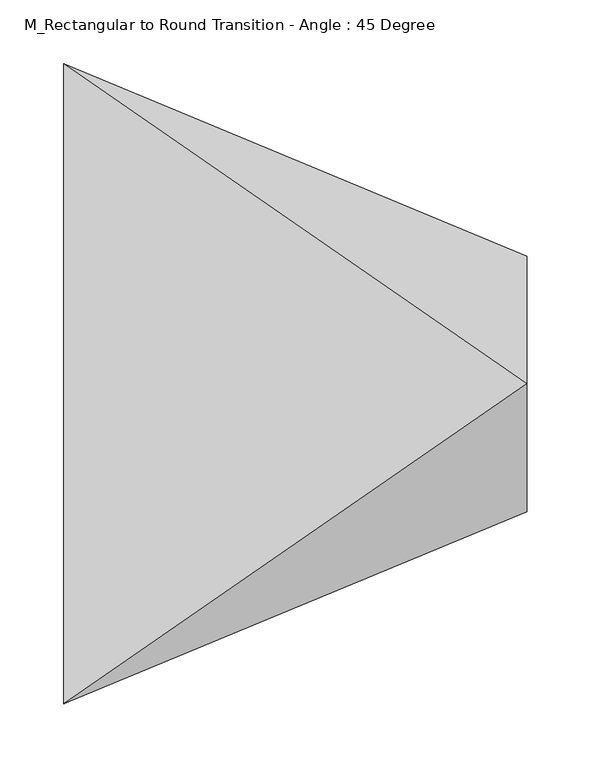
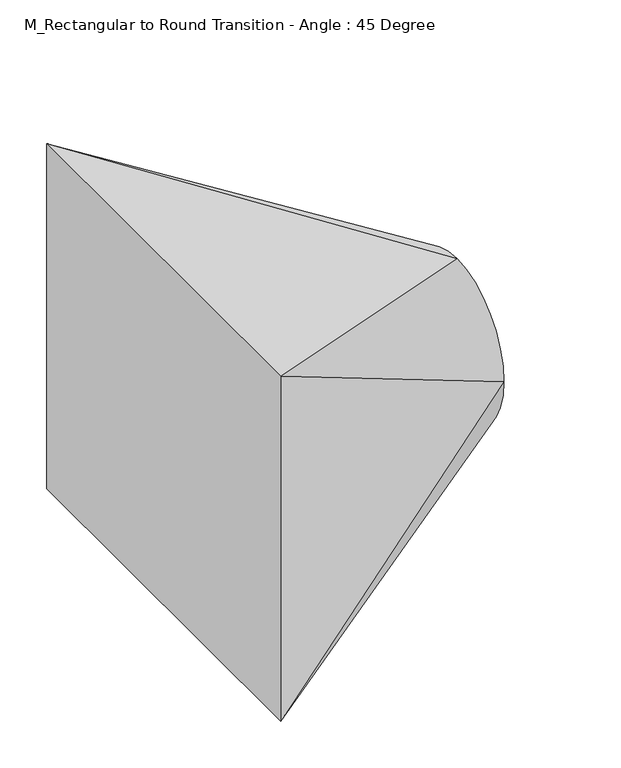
"""IFC4 building model written with IfcOpenShell, lengths in millimetres: duct fitting geometry, M_Rectangular to Round Transition - Angle : 45 Degree."""

from ifc_helpers import new_model, si_unit, frame, origin, place, context, project, spatial, circle_curve, source, transform, mapped, element, save
from ifc_brep_helpers import plane_surface, spline_surface, advanced_brep


def m_rectangular_to_round_transition_angle_45_degree_52f8b7ed(model_context):
    return source(origin(), model_context, "Body", "AdvancedBrep", [
        advanced_brep(
        [(0.0, -250.0, -225.0), (0.0, -250.0, 225.0), (0.0, 250.0, 225.0), (0.0, 250.0, -225.0), (362.1320344, -100.0, 0.0), (362.1320344, 0.0, -100.0), (362.1320344, 100.0, 0.0), (362.1320344, 0.0, 100.0)],
        [
            (0, 1),
            (1, 2),
            (2, 3),
            (3, 0),
            (4, 5, circle_curve(frame((362.1320344, 0.0, 0.0), z_axis=(1.0, 0.0, 0.0), x_axis=(0.0, -1.0, 0.0)), 100.0)),
            (5, 6, circle_curve(frame((362.1320344, 0.0, 0.0), z_axis=(1.0, 0.0, 0.0), x_axis=(0.0, -1.0, 0.0)), 100.0)),
            (6, 7, circle_curve(frame((362.1320344, 0.0, 0.0), z_axis=(1.0, 0.0, 0.0), x_axis=(0.0, -1.0, 0.0)), 100.0)),
            (7, 4, circle_curve(frame((362.1320344, 0.0, 0.0), z_axis=(1.0, 0.0, 0.0), x_axis=(0.0, -1.0, 0.0)), 100.0)),
            (0, 4),
            (4, 1),
            (7, 1),
            (7, 2),
            (6, 2),
            (6, 3),
            (5, 3),
            (5, 0),
        ],
        [
            plane_surface(frame((0.0, 0.0, 0.0), z_axis=(-1.0, 0.0, 0.0), x_axis=(0.0, 1.0, 0.0))),
            plane_surface(frame((362.1320344, 0.0, 0.0), z_axis=(1.0, 0.0, 0.0), x_axis=(0.0, 1.0, 0.0))),
            plane_surface(frame((362.1320344, -100.0, 0.0), z_axis=(0.38268343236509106, -0.9238795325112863, 0.0), x_axis=(0.0, 0.0, 1.0))),
            spline_surface(2, 1, [[(362.1320344, -100.0, 0.0), (0.0, -250.0, 225.0)], [(362.1320344, -100.0, 100.0), (0.0, -250.0, 225.0)], [(362.1320344, 0.0, 100.0), (0.0, -250.0, 225.0)]], [3, 3], [2, 2], [0.0, 1.0], [0.0, 1.0], weights=[[1.0, 1.0], [0.7071067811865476, 0.7071067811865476], [1.0, 1.0]]),
            plane_surface(frame((362.1320344, 0.0, 100.0), z_axis=(0.32628667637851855, 0.0, 0.9452708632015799), x_axis=(0.0, 1.0, 0.0))),
            spline_surface(2, 1, [[(362.1320344, 0.0, 100.0), (0.0, 250.0, 225.0)], [(362.1320344, 100.0, 100.0), (0.0, 250.0, 225.0)], [(362.1320344, 100.0, 0.0), (0.0, 250.0, 225.0)]], [3, 3], [2, 2], [0.0, 1.0], [0.0, 1.0], weights=[[1.0, 1.0], [0.7071067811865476, 0.7071067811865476], [1.0, 1.0]]),
            plane_surface(frame((362.1320344, 100.0, 0.0), z_axis=(0.3826834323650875, 0.9238795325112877, 0.0), x_axis=(0.0, 0.0, -1.0))),
            spline_surface(2, 1, [[(362.1320344, 100.0, 0.0), (0.0, 250.0, -225.0)], [(362.1320344, 100.0, -100.0), (0.0, 250.0, -225.0)], [(362.1320344, 0.0, -100.0), (0.0, 250.0, -225.0)]], [3, 3], [2, 2], [0.0, 1.0], [0.0, 1.0], weights=[[1.0, 1.0], [0.7071067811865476, 0.7071067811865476], [1.0, 1.0]]),
            plane_surface(frame((362.1320344, 0.0, -100.0), z_axis=(0.3262866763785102, 0.0, -0.9452708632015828), x_axis=(0.0, -1.0, 0.0))),
            spline_surface(2, 1, [[(362.1320344, 0.0, -100.0), (0.0, -250.0, -225.0)], [(362.1320344, -100.0, -100.0), (0.0, -250.0, -225.0)], [(362.1320344, -100.0, 0.0), (0.0, -250.0, -225.0)]], [3, 3], [2, 2], [0.0, 1.0], [0.0, 1.0], weights=[[1.0, 1.0], [0.7071067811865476, 0.7071067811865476], [1.0, 1.0]]),
        ],
        [
            (0, [[1, 2, 3, 4]]),
            (1, [[5, 6, 7, 8]]),
            (2, [[-1, 9, 10]]),
            (3, [[-8, 11, -10]]),
            (4, [[-2, -11, 12]]),
            (5, [[-7, 13, -12]]),
            (6, [[-3, -13, 14]]),
            (7, [[-6, 15, -14]]),
            (8, [[-4, -15, 16]]),
            (9, [[-5, -9, -16]]),
        ],
    ),
        advanced_brep(
        [(0.0, -250.0, -225.0), (0.0, -250.0, 225.0), (0.0, 250.0, 225.0), (0.0, 250.0, -225.0), (362.1320344, -100.0, 0.0), (362.1320344, 0.0, -100.0), (362.1320344, 100.0, 0.0), (362.1320344, 0.0, 100.0)],
        [
            (0, 1),
            (1, 2),
            (2, 3),
            (3, 0),
            (4, 5, circle_curve(frame((362.1320344, 0.0, 0.0), z_axis=(1.0, 0.0, 0.0), x_axis=(0.0, -1.0, 0.0)), 100.0)),
            (5, 6, circle_curve(frame((362.1320344, 0.0, 0.0), z_axis=(1.0, 0.0, 0.0), x_axis=(0.0, -1.0, 0.0)), 100.0)),
            (6, 7, circle_curve(frame((362.1320344, 0.0, 0.0), z_axis=(1.0, 0.0, 0.0), x_axis=(0.0, -1.0, 0.0)), 100.0)),
            (7, 4, circle_curve(frame((362.1320344, 0.0, 0.0), z_axis=(1.0, 0.0, 0.0), x_axis=(0.0, -1.0, 0.0)), 100.0)),
            (0, 4),
            (4, 1),
            (7, 1),
            (7, 2),
            (6, 2),
            (6, 3),
            (5, 3),
            (5, 0),
        ],
        [
            plane_surface(frame((0.0, 0.0, 0.0), z_axis=(-1.0, 0.0, 0.0), x_axis=(0.0, 1.0, 0.0))),
            plane_surface(frame((362.1320344, 0.0, 0.0), z_axis=(1.0, 0.0, 0.0), x_axis=(0.0, 1.0, 0.0))),
            plane_surface(frame((362.1320344, -100.0, 0.0), z_axis=(0.3826834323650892, -0.923879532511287, 0.0), x_axis=(0.0, 0.0, 1.0))),
            spline_surface(2, 1, [[(362.1320344, -100.0, 0.0), (0.0, -250.0, 225.0)], [(362.1320344, -100.0, 100.0), (0.0, -250.0, 225.0)], [(362.1320344, 0.0, 100.0), (0.0, -250.0, 225.0)]], [3, 3], [2, 2], [0.0, 1.0], [0.0, 1.0], weights=[[1.0, 1.0], [0.7071067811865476, 0.7071067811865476], [1.0, 1.0]]),
            plane_surface(frame((362.1320344, 0.0, 100.0), z_axis=(0.32628667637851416, 0.0, 0.9452708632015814), x_axis=(0.0, 1.0, 0.0))),
            spline_surface(2, 1, [[(362.1320344, 0.0, 100.0), (0.0, 250.0, 225.0)], [(362.1320344, 100.0, 100.0), (0.0, 250.0, 225.0)], [(362.1320344, 100.0, 0.0), (0.0, 250.0, 225.0)]], [3, 3], [2, 2], [0.0, 1.0], [0.0, 1.0], weights=[[1.0, 1.0], [0.7071067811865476, 0.7071067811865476], [1.0, 1.0]]),
            plane_surface(frame((362.1320344, 100.0, 0.0), z_axis=(0.38268343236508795, 0.9238795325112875, 0.0), x_axis=(0.0, 0.0, -1.0))),
            spline_surface(2, 1, [[(362.1320344, 100.0, 0.0), (0.0, 250.0, -225.0)], [(362.1320344, 100.0, -100.0), (0.0, 250.0, -225.0)], [(362.1320344, 0.0, -100.0), (0.0, 250.0, -225.0)]], [3, 3], [2, 2], [0.0, 1.0], [0.0, 1.0], weights=[[1.0, 1.0], [0.7071067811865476, 0.7071067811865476], [1.0, 1.0]]),
            plane_surface(frame((362.1320344, 0.0, -100.0), z_axis=(0.32628667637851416, 0.0, -0.9452708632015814), x_axis=(0.0, -1.0, 0.0))),
            spline_surface(2, 1, [[(362.1320344, 0.0, -100.0), (0.0, -250.0, -225.0)], [(362.1320344, -100.0, -100.0), (0.0, -250.0, -225.0)], [(362.1320344, -100.0, 0.0), (0.0, -250.0, -225.0)]], [3, 3], [2, 2], [0.0, 1.0], [0.0, 1.0], weights=[[1.0, 1.0], [0.7071067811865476, 0.7071067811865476], [1.0, 1.0]]),
        ],
        [
            (0, [[1, 2, 3, 4]]),
            (1, [[5, 6, 7, 8]]),
            (2, [[-1, 9, 10]]),
            (3, [[-8, 11, -10]]),
            (4, [[-2, -11, 12]]),
            (5, [[-7, 13, -12]]),
            (6, [[-3, -13, 14]]),
            (7, [[-6, 15, -14]]),
            (8, [[-4, -15, 16]]),
            (9, [[-5, -9, -16]]),
        ],
    ),
        advanced_brep(
        [(362.1320344, 0.0, 100.0), (362.1320344, -100.0, 0.0), (362.1320344, 0.0, -100.0), (362.1320344, 100.0, 0.0), (0.0, -250.0, 225.0), (0.0, 250.0, 225.0), (0.0, 250.0, -225.0), (0.0, -250.0, -225.0)],
        [
            (0, 1, circle_curve(frame((362.1320344, 0.0, 0.0), z_axis=(1.0, 0.0, 0.0), x_axis=(0.0, 1.0, 0.0)), 100.0)),
            (1, 2, circle_curve(frame((362.1320344, 0.0, 0.0), z_axis=(1.0, 0.0, 0.0), x_axis=(0.0, 1.0, 0.0)), 100.0)),
            (2, 3, circle_curve(frame((362.1320344, 0.0, 0.0), z_axis=(1.0, 0.0, 0.0), x_axis=(0.0, 1.0, 0.0)), 100.0)),
            (3, 0, circle_curve(frame((362.1320344, 0.0, 0.0), z_axis=(1.0, 0.0, 0.0), x_axis=(0.0, 1.0, 0.0)), 100.0)),
            (4, 5),
            (5, 6),
            (6, 7),
            (7, 4),
            (0, 4),
            (4, 1),
            (7, 1),
            (7, 2),
            (6, 2),
            (6, 3),
            (5, 3),
            (5, 0),
        ],
        [
            plane_surface(frame((362.1320344, 0.0, 0.0), z_axis=(1.0, 0.0, 0.0), x_axis=(0.0, 0.0, -1.0))),
            plane_surface(frame((0.0, 0.0, 0.0), z_axis=(-1.0, 0.0, 0.0), x_axis=(0.0, 0.0, -1.0))),
            spline_surface(2, 1, [[(0.0, -250.0, 225.0), (362.1320344, 0.0, 100.0)], [(0.0, -250.0, 225.0), (362.1320344, -100.0, 100.0)], [(0.0, -250.0, 225.0), (362.1320344, -100.0, 0.0)]], [3, 3], [2, 2], [0.0, 1.0], [0.0, 1.0], weights=[[1.0, 1.0], [0.7071067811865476, 0.7071067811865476], [1.0, 1.0]]),
            plane_surface(frame((0.0, -250.0, 0.0), z_axis=(0.38268343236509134, -0.9238795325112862, 0.0), x_axis=(0.0, 0.0, -1.0))),
            spline_surface(2, 1, [[(0.0, -250.0, -225.0), (362.1320344, -100.0, 0.0)], [(0.0, -250.0, -225.0), (362.1320344, -100.0, -100.0)], [(0.0, -250.0, -225.0), (362.1320344, 0.0, -100.0)]], [3, 3], [2, 2], [0.0, 1.0], [0.0, 1.0], weights=[[1.0, 1.0], [0.7071067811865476, 0.7071067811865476], [1.0, 1.0]]),
            plane_surface(frame((0.0, 0.0, -225.0), z_axis=(0.32628667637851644, 0.0, -0.9452708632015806), x_axis=(0.0, 1.0, 0.0))),
            spline_surface(2, 1, [[(0.0, 250.0, -225.0), (362.1320344, 0.0, -100.0)], [(0.0, 250.0, -225.0), (362.1320344, 100.0, -100.0)], [(0.0, 250.0, -225.0), (362.1320344, 100.0, 0.0)]], [3, 3], [2, 2], [0.0, 1.0], [0.0, 1.0], weights=[[1.0, 1.0], [0.7071067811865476, 0.7071067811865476], [1.0, 1.0]]),
            plane_surface(frame((0.0, 250.0, 0.0), z_axis=(0.38268343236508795, 0.9238795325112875, 0.0), x_axis=(0.0, 0.0, 1.0))),
            spline_surface(2, 1, [[(0.0, 250.0, 225.0), (362.1320344, 100.0, 0.0)], [(0.0, 250.0, 225.0), (362.1320344, 100.0, 100.0)], [(0.0, 250.0, 225.0), (362.1320344, 0.0, 100.0)]], [3, 3], [2, 2], [0.0, 1.0], [0.0, 1.0], weights=[[1.0, 1.0], [0.7071067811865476, 0.7071067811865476], [1.0, 1.0]]),
            plane_surface(frame((0.0, 0.0, 225.0), z_axis=(0.32628667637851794, 0.0, 0.94527086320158), x_axis=(0.0, -1.0, 0.0))),
        ],
        [
            (0, [[1, 2, 3, 4]]),
            (1, [[5, 6, 7, 8]]),
            (2, [[-1, 9, 10]]),
            (3, [[-8, 11, -10]]),
            (4, [[-2, -11, 12]]),
            (5, [[-7, 13, -12]]),
            (6, [[-3, -13, 14]]),
            (7, [[-6, 15, -14]]),
            (8, [[-4, -15, 16]]),
            (9, [[-5, -9, -16]]),
        ],
    ),
    ])


if __name__ == "__main__":
    model = new_model("IFC4")
    model_context = context("Model", 3, world=origin())
    ifc_project = project(units=[si_unit("LENGTHUNIT", "METRE", prefix="MILLI")], contexts=[model_context])
    site = spatial("IfcSite", under=ifc_project)
    building = spatial("IfcBuilding", under=site)
    placement = place(None, origin())
    m_rectangular_to_round_transition_angle_45_degree_shape = m_rectangular_to_round_transition_angle_45_degree_52f8b7ed(model_context)
    element("IfcDuctFitting", 1, ObjectType="M_Rectangular to Round Transition - Angle : 45 Degree", at=placement, inside=building, context=model_context, shape_type="MappedRepresentation", body=[
        mapped(m_rectangular_to_round_transition_angle_45_degree_shape, transform((0.0, 0.0, 0.0), x_axis=(1.0, 0.0, 0.0), y_axis=(0.0, 1.0, 0.0), z_axis=(0.0, 0.0, 1.0))),
    ])
    save(model, "model.ifc")
